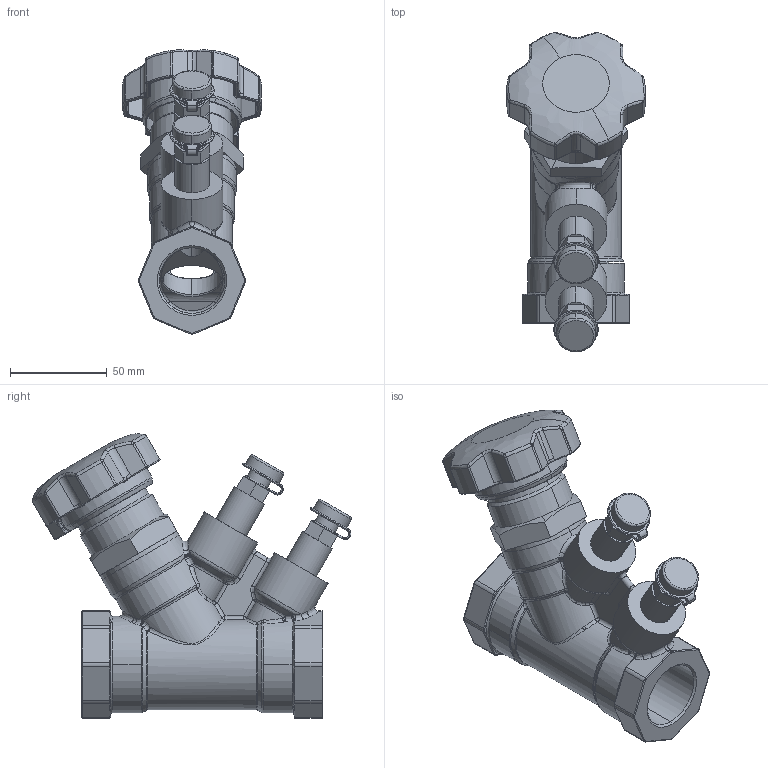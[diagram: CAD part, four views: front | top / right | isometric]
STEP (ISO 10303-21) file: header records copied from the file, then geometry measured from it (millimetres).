
FILE_DESCRIPTION (( 'STEP AP203' ), '1' );
FILE_NAME ('0.STEP', '2017-04-04T05:42:47', ( 'User' ), ( 'shendu' ), 'SwSTEP 2.0', 'SolidWorks 2015', '' );
FILE_SCHEMA (( 'CONFIG_CONTROL_DESIGN' ));
Length unit declared in the file: millimetre
Products named in the file (1): 0
Bounding box: 71.52 x 165.42 x 147.18 mm (x, y, z)
Volume: 305909.9 mm3; surface area: 113258.1 mm2
Topology: 9 solids, 9 shells, 1025 faces, 2515 edges, 1436 vertices
Faces by surface type: bspline 511, cylinder 308, plane 151, cone 55
Entity records: 63952 total; most frequent: CARTESIAN_POINT 44067, ORIENTED_EDGE 4848, DIRECTION 3028, EDGE_CURVE 2424, VERTEX_POINT 1436, AXIS2_PLACEMENT_3D 1241, EDGE_LOOP 1062, B_SPLINE_CURVE_WITH_KNOTS 1033
